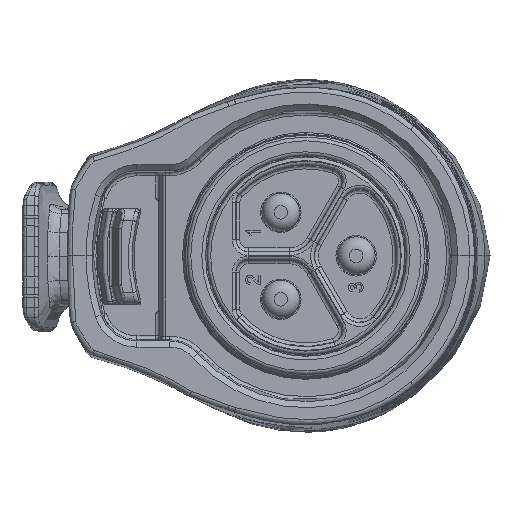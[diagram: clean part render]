
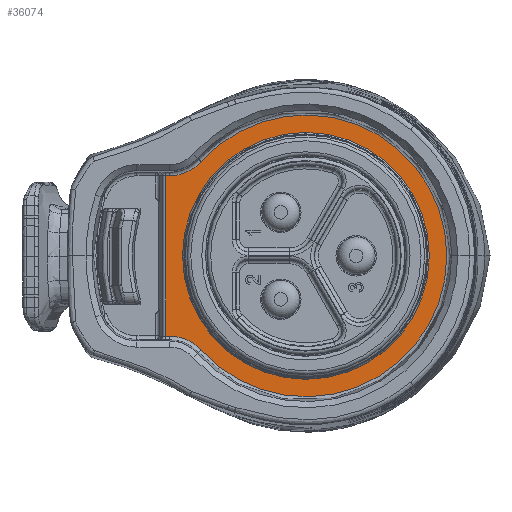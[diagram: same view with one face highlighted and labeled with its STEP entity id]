
A CAD part, left-side view. The second image highlights one B-rep face of the part: STEP entity #36074.
In plain terms, the highlighted planar face has unit normal (-1, 0, 0).
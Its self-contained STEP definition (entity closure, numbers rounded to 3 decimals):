
#2449 = CIRCLE ( 'NONE', #41323, 9.7 ) ;
#3777 = VERTEX_POINT ( 'NONE', #48522 ) ;
#3966 = EDGE_CURVE ( 'NONE', #52132, #52132, #2449, .T. ) ;
#3974 = CARTESIAN_POINT ( 'NONE',  ( 11.696, 11.44, -6.553 ) ) ;
#5002 = VERTEX_POINT ( 'NONE', #3974 ) ;
#7571 = FACE_OUTER_BOUND ( 'NONE', #69013, .T. ) ;
#8639 = EDGE_CURVE ( 'NONE', #5002, #20521, #68475, .T. ) ;
#9057 = ORIENTED_EDGE ( 'NONE', *, *, #8639, .T. ) ;
#9242 = DIRECTION ( 'NONE',  ( 1., 0., 0. ) ) ;
#9681 = CARTESIAN_POINT ( 'NONE',  ( 11.696, 0., 0. ) ) ;
#10023 = DIRECTION ( 'NONE',  ( 0., 0., -1. ) ) ;
#12398 = EDGE_CURVE ( 'NONE', #30248, #5002, #44297, .T. ) ;
#17324 = VERTEX_POINT ( 'NONE', #19756 ) ;
#18097 = AXIS2_PLACEMENT_3D ( 'NONE', #26549, #41857, #48629 ) ;
#18674 = CIRCLE ( 'NONE', #69056, 3.447 ) ;
#19756 = CARTESIAN_POINT ( 'NONE',  ( 11.696, 8.551, -7.694 ) ) ;
#20521 = VERTEX_POINT ( 'NONE', #43569 ) ;
#20725 = DIRECTION ( 'NONE',  ( 0., -1., 0. ) ) ;
#21435 = VECTOR ( 'NONE', #47644, 1000. ) ;
#24120 = DIRECTION ( 'NONE',  ( 0., -1., 0. ) ) ;
#26549 = CARTESIAN_POINT ( 'NONE',  ( 11.696, 13.796, -3.9 ) ) ;
#27440 = PLANE ( 'NONE',  #18097 ) ;
#28662 = DIRECTION ( 'NONE',  ( 0., 0., 1. ) ) ;
#30064 = EDGE_CURVE ( 'NONE', #68125, #3777, #18674, .T. ) ;
#30248 = VERTEX_POINT ( 'NONE', #63139 ) ;
#30536 = CARTESIAN_POINT ( 'NONE',  ( 11.696, 0., 0. ) ) ;
#33696 = VECTOR ( 'NONE', #10023, 1000. ) ;
#35096 = FACE_BOUND ( 'NONE', #80866, .T. ) ;
#36074 = ADVANCED_FACE ( 'NONE', ( #7571, #35096 ), #27440, .T. ) ;
#38041 = CIRCLE ( 'NONE', #68192, 11.503 ) ;
#40860 = LINE ( 'NONE', #68346, #21435 ) ;
#41323 = AXIS2_PLACEMENT_3D ( 'NONE', #9681, #9242, #24120 ) ;
#41857 = DIRECTION ( 'NONE',  ( -1., 0., 0. ) ) ;
#42279 = EDGE_CURVE ( 'NONE', #20521, #17324, #85847, .T. ) ;
#43569 = CARTESIAN_POINT ( 'NONE',  ( 11.696, 11.113, -6.553 ) ) ;
#44297 = LINE ( 'NONE', #71792, #33696 ) ;
#47644 = DIRECTION ( 'NONE',  ( 0., 1., 0. ) ) ;
#48522 = CARTESIAN_POINT ( 'NONE',  ( 11.696, 11.113, 6.553 ) ) ;
#48629 = DIRECTION ( 'NONE',  ( 0., 0., 1. ) ) ;
#52132 = VERTEX_POINT ( 'NONE', #52570 ) ;
#52570 = CARTESIAN_POINT ( 'NONE',  ( 11.696, -9.7, 0. ) ) ;
#53457 = VECTOR ( 'NONE', #20725, 1000. ) ;
#54143 = ORIENTED_EDGE ( 'NONE', *, *, #3966, .T. ) ;
#54361 = CARTESIAN_POINT ( 'NONE',  ( 11.696, 8.551, 7.694 ) ) ;
#55956 = EDGE_CURVE ( 'NONE', #17324, #68125, #38041, .T. ) ;
#56776 = CARTESIAN_POINT ( 'NONE',  ( 11.696, 11.113, -10. ) ) ;
#57222 = DIRECTION ( 'NONE',  ( 0., 0., 1. ) ) ;
#61283 = CARTESIAN_POINT ( 'NONE',  ( 11.696, 13.796, -6.553 ) ) ;
#62911 = DIRECTION ( 'NONE',  ( 1., 0., 0. ) ) ;
#63139 = CARTESIAN_POINT ( 'NONE',  ( 11.696, 11.44, 6.553 ) ) ;
#68125 = VERTEX_POINT ( 'NONE', #54361 ) ;
#68192 = AXIS2_PLACEMENT_3D ( 'NONE', #30536, #72001, #71096 ) ;
#68346 = CARTESIAN_POINT ( 'NONE',  ( 11.696, 13.796, 6.553 ) ) ;
#68475 = LINE ( 'NONE', #61283, #53457 ) ;
#69013 = EDGE_LOOP ( 'NONE', ( #76379, #74984, #9057, #81274, #84701, #72347 ) ) ;
#69056 = AXIS2_PLACEMENT_3D ( 'NONE', #82298, #62911, #28662 ) ;
#70006 = EDGE_CURVE ( 'NONE', #3777, #30248, #40860, .T. ) ;
#70733 = DIRECTION ( 'NONE',  ( 1., 0., 0. ) ) ;
#71096 = DIRECTION ( 'NONE',  ( 0., 0., 1. ) ) ;
#71792 = CARTESIAN_POINT ( 'NONE',  ( 11.696, 11.44, -3.9 ) ) ;
#72001 = DIRECTION ( 'NONE',  ( -1., 0., 0. ) ) ;
#72347 = ORIENTED_EDGE ( 'NONE', *, *, #30064, .T. ) ;
#74984 = ORIENTED_EDGE ( 'NONE', *, *, #12398, .T. ) ;
#76379 = ORIENTED_EDGE ( 'NONE', *, *, #70006, .T. ) ;
#80866 = EDGE_LOOP ( 'NONE', ( #54143 ) ) ;
#81274 = ORIENTED_EDGE ( 'NONE', *, *, #42279, .T. ) ;
#82298 = CARTESIAN_POINT ( 'NONE',  ( 11.696, 11.113, 10. ) ) ;
#84501 = AXIS2_PLACEMENT_3D ( 'NONE', #56776, #70733, #57222 ) ;
#84701 = ORIENTED_EDGE ( 'NONE', *, *, #55956, .T. ) ;
#85847 = CIRCLE ( 'NONE', #84501, 3.447 ) ;
